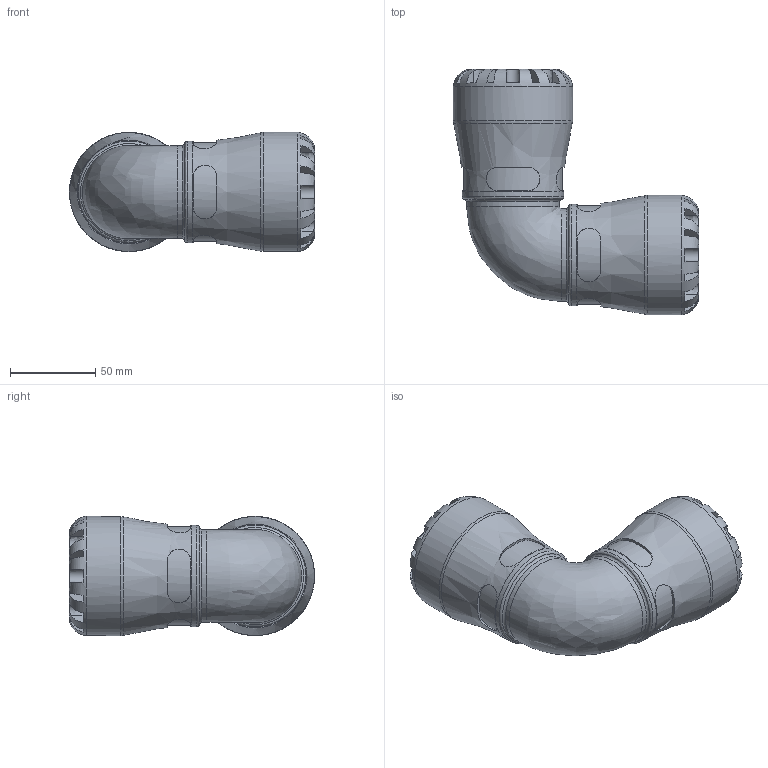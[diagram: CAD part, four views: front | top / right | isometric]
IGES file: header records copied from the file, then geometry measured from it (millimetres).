
Global section: file name: 150500040; native system: Autodesk Inventor 2019; preprocessor: unknown; author: KIM; date: 20231017.193503; units: millimetre
Bounding box: 144 x 144 x 70 mm (x, y, z)
Volume: 387901.2 mm3; surface area: 74300 mm2
Topology: 1 solids, 1 shells, 196 faces, 521 edges, 335 vertices
Faces by surface type: bspline 196
